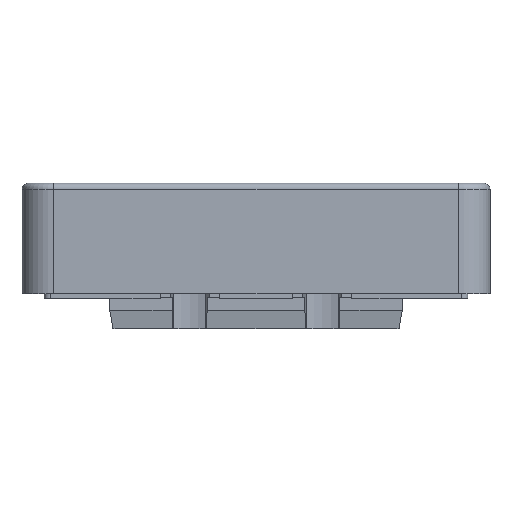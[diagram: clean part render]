
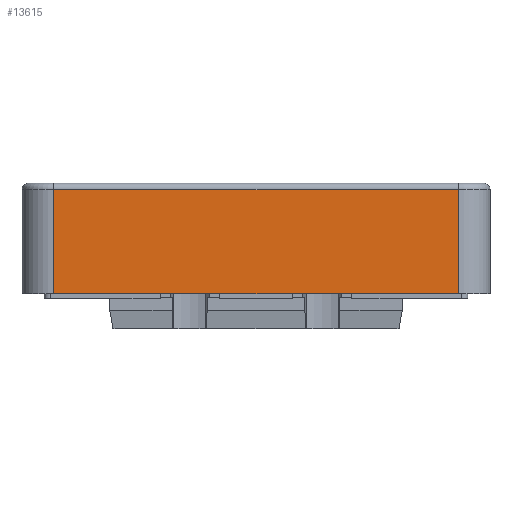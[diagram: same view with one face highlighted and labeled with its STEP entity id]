
A CAD part, front view. The second image highlights one B-rep face of the part: STEP entity #13615.
In plain terms, the highlighted planar face has unit normal (0, -1, 0).
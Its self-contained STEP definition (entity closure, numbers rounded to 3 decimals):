
#1482=FACE_OUTER_BOUND('',#2278,.T.);
#2278=EDGE_LOOP('',(#11634,#11635,#11636,#11637));
#3636=LINE('',#22534,#5061);
#3637=LINE('',#22543,#5062);
#3639=LINE('',#22549,#5064);
#3640=LINE('',#22551,#5065);
#5061=VECTOR('',#17336,10.);
#5062=VECTOR('',#17349,10.);
#5064=VECTOR('',#17359,10.);
#5065=VECTOR('',#17362,10.);
#6381=VERTEX_POINT('',#22531);
#6382=VERTEX_POINT('',#22533);
#6383=VERTEX_POINT('',#22537);
#6384=VERTEX_POINT('',#22541);
#8195=EDGE_CURVE('',#6382,#6381,#3636,.T.);
#8200=EDGE_CURVE('',#6384,#6383,#3637,.T.);
#8203=EDGE_CURVE('',#6383,#6381,#3639,.T.);
#8204=EDGE_CURVE('',#6382,#6384,#3640,.T.);
#11634=ORIENTED_EDGE('',*,*,#8200,.F.);
#11635=ORIENTED_EDGE('',*,*,#8204,.F.);
#11636=ORIENTED_EDGE('',*,*,#8195,.T.);
#11637=ORIENTED_EDGE('',*,*,#8203,.F.);
#12944=PLANE('',#14571);
#13615=ADVANCED_FACE('',(#1482),#12944,.T.);
#14571=AXIS2_PLACEMENT_3D('',#22550,#17360,#17361);
#17336=DIRECTION('',(-1.,0.,0.));
#17349=DIRECTION('',(-1.,0.,0.));
#17359=DIRECTION('',(0.,0.,1.));
#17360=DIRECTION('center_axis',(0.,-1.,0.));
#17361=DIRECTION('ref_axis',(0.,0.,-1.));
#17362=DIRECTION('',(0.,0.,-1.));
#22531=CARTESIAN_POINT('',(-32.,-29.,-0.5));
#22533=CARTESIAN_POINT('',(32.,-29.,-0.5));
#22534=CARTESIAN_POINT('',(-12.949,-29.,-0.5));
#22537=CARTESIAN_POINT('',(-32.,-29.,-17.));
#22541=CARTESIAN_POINT('',(32.,-29.,-17.));
#22543=CARTESIAN_POINT('',(-16.839,-29.,-17.));
#22549=CARTESIAN_POINT('',(-32.,-29.,0.));
#22550=CARTESIAN_POINT('Origin',(-37.,-29.,0.));
#22551=CARTESIAN_POINT('',(32.,-29.,0.));
